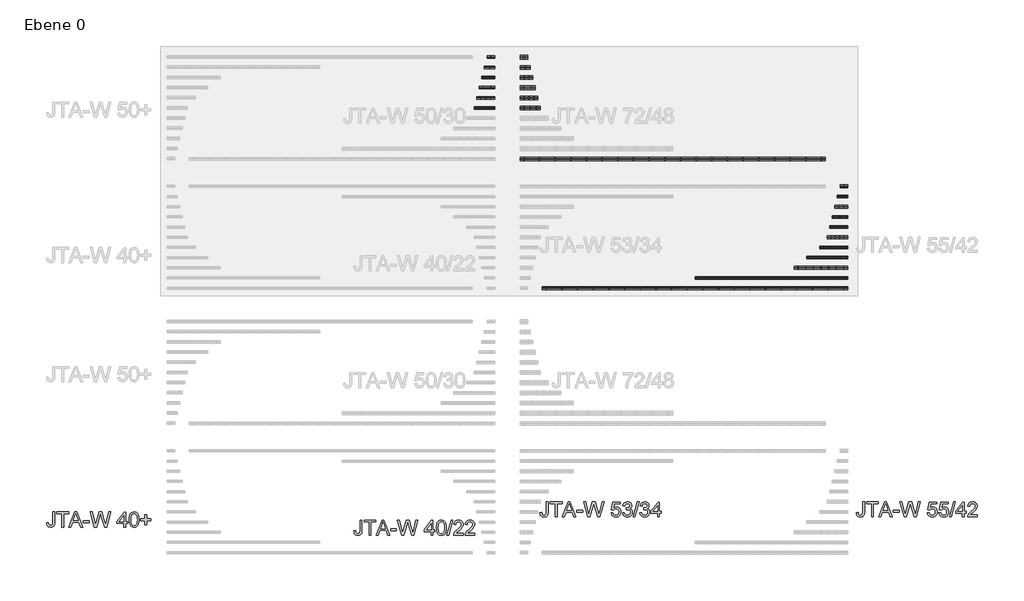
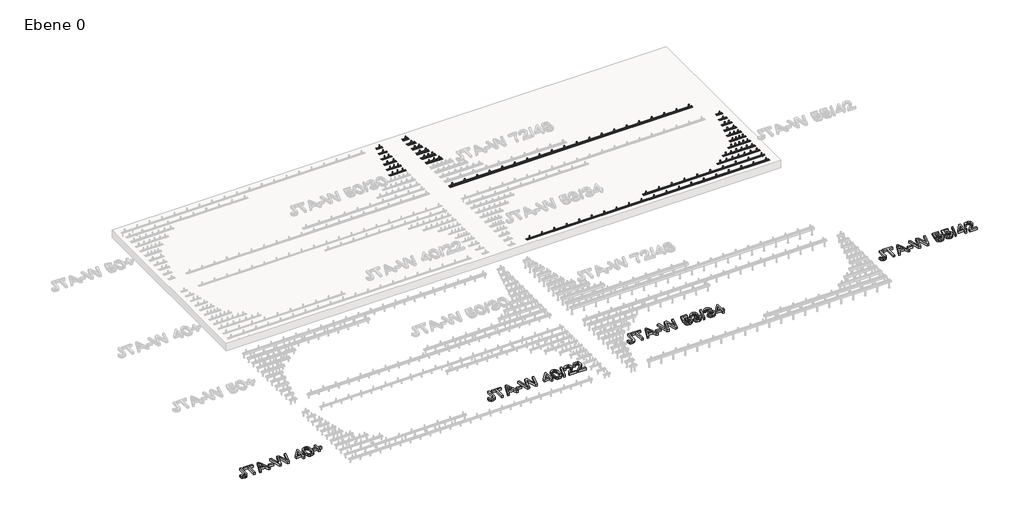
# One storey, part 3 of 5: 24 fasteners, 4 proxies.
"""IFC4 building model written with IfcOpenShell, lengths in millimetres."""

from ifc_helpers import new_model, si_unit, origin, origin_with_axes, place, context, project, spatial, polyline, outline, extrude, transform, mapped, element, save
from components import fastener_bc0e0492, fastener_2f8d67ed, fastener_759e0575, fastener_c9796623, fastener_be18af22, fastener_ec209d90, fastener_eb7ec72f, fastener_c7c1462d, fastener_3b5695ac, fastener_a81f9f25, fastener_b51df3b7, fastener_682311e9, fastener_55e4fc31, fastener_ce59bcd4, fastener_0ec726aa, fastener_f13404a8, fastener_590a0ea5, fastener_1f1ea62b, fastener_f18ef81e, fastener_d6b95dcd, fastener_27d0183c, fastener_f914a689, fastener_d06169fd, fastener_35095dbe, fastener_af97386c, fastener_28f62583, fastener_04aeaee6, fastener_a86c2ace, fastener_a53ba8c5, fastener_dd1fd8bc, fastener_4d909be3

model = new_model("IFC4")

# Units and contexts
model_context = context("Model", 3, world=origin())
ifc_project = project(units=[si_unit("LENGTHUNIT", "METRE", prefix="MILLI")], contexts=[model_context])

# Site, building, storey
site = spatial("IfcSite", under=ifc_project)
building = spatial("IfcBuilding", under=site)
storey = spatial("IfcBuildingStorey", under=building, Name="Ebene 0", Elevation=0.0)

# Proxies
placement = place(None, origin())
element("IfcBuildingElementProxy", 1, Name="600mm Arial", ObjectType="600mm Arial", at=placement, inside=storey, context=model_context, shape_type="SweptSolid", body=[
    extrude(outline(polyline([(-10013.7628927, -1994.3740925), (-9976.8398158, -1989.6144771), (-9972.9996716, -2016.4594291), (-9964.2196235, -2033.2442848), (-9950.806162, -2042.0603906), (-9933.0657774, -2044.9990925), (-9919.4269552, -2043.3314243), (-9907.789335, -2038.3284195), (-9898.8109697, -2030.4498137), (-9893.149912, -2020.1553425), (-9889.1475081, -1983.5567848), (-9889.1475081, -1781.9221695), (-9852.2244312, -1781.9221695), (-9852.2244312, -1982.9077464), (-9854.4509937, -2015.7833473), (-9861.1306812, -2040.2755348), (-9872.6511139, -2058.1691646), (-9889.399912, -2071.2490925), (-9910.430561, -2079.2539002), (-9934.7965466, -2081.9221695), (-9968.9251524, -2076.414357), (-9982.595525, -2069.5295913), (-9994.0032774, -2059.8909195), (-10002.945585, -2047.534399), (-10009.2196235, -2032.4960877), (-10013.7628927, -1994.3740925)])), origin_with_axes(), (0.0, 0.0, 1.0), 50.0),
    extrude(outline(polyline([(-9713.7628927, -2077.3067848), (-9713.7628927, -1818.8452464), (-9810.6859697, -1818.8452464), (-9810.6859697, -1781.9221695), (-9579.9167389, -1781.9221695), (-9579.9167389, -1818.8452464), (-9676.8398158, -1818.8452464), (-9676.8398158, -2077.3067848), (-9713.7628927, -2077.3067848)])), origin_with_axes(), (0.0, 0.0, 1.0), 50.0),
    extrude(outline(polyline([(-9572.7773158, -2077.3067848), (-9454.868662, -1781.9221695), (-9423.4263543, -1781.9221695), (-9305.5177004, -2077.3067848), (-9344.5321235, -2077.3067848), (-9378.3542389, -1984.9990925), (-9500.0128927, -1984.9990925), (-9533.7628927, -2077.3067848), (-9572.7773158, -2077.3067848)]), holes=[polyline([(-9486.4552004, -1948.0760156), (-9391.8398158, -1948.0760156), (-9418.4503927, -1875.4558233), (-9439.1475081, -1818.8452464), (-9457.5369312, -1869.1096695), (-9486.4552004, -1948.0760156)])]), origin_with_axes(), (0.0, 0.0, 1.0), 50.0),
    extrude(outline(polyline([(-9289.1475081, -1989.6144771), (-9289.1475081, -1952.6914002), (-9173.7628927, -1952.6914002), (-9173.7628927, -1989.6144771), (-9289.1475081, -1989.6144771)])), origin_with_axes(), (0.0, 0.0, 1.0), 50.0),
    extrude(outline(polyline([(-9074.7484697, -2077.3067848), (-9155.3013543, -1781.9221695), (-9117.2244312, -1781.9221695), (-9070.493662, -1976.0567848), (-9056.070585, -2035.9846695), (-9040.6378927, -1982.9798618), (-8982.0802004, -1781.9221695), (-8927.2003927, -1781.9221695), (-8884.6523158, -1927.6673618), (-8866.4251524, -1981.7539002), (-8852.993662, -2035.9846695), (-8839.0032774, -1977.7875541), (-8791.8398158, -1781.9221695), (-8753.7628927, -1781.9221695), (-8834.3878927, -2077.3067848), (-8873.8350081, -2077.3067848), (-8944.6523158, -1849.4221695), (-8954.5321235, -1817.6192848), (-8965.6378927, -1855.9125541), (-9030.181162, -2077.3067848), (-9074.7484697, -2077.3067848)])), origin_with_axes(), (0.0, 0.0, 1.0), 50.0),
    extrude(outline(polyline([(-8495.3013543, -2077.3067848), (-8495.3013543, -2008.0760156), (-8629.1475081, -2008.0760156), (-8629.1475081, -1971.1529387), (-8486.070585, -1786.5375541), (-8458.3782774, -1786.5375541), (-8458.3782774, -1971.1529387), (-8421.4552004, -1971.1529387), (-8421.4552004, -2008.0760156), (-8458.3782774, -2008.0760156), (-8458.3782774, -2077.3067848), (-8495.3013543, -2077.3067848)]), holes=[polyline([(-8495.3013543, -1971.1529387), (-8495.3013543, -1857.0664002), (-8583.7148158, -1971.1529387), (-8495.3013543, -1971.1529387)])]), origin_with_axes(), (0.0, 0.0, 1.0), 50.0),
    extrude(outline(polyline([(-8389.1475081, -1931.9942848), (-8386.4341668, -1884.7136358), (-8378.2941427, -1847.0063041), (-8364.8085658, -1818.2953666), (-8346.0585658, -1798.0039002), (-8321.9089264, -1785.9426021), (-8292.2244312, -1781.9221695), (-8269.4720274, -1784.3019771), (-8249.0994312, -1791.4414002), (-8232.0621716, -1803.0609916), (-8219.3157774, -1818.8813041), (-8209.6883735, -1838.7671214), (-8202.008085, -1862.5832271), (-8196.978037, -1892.8266166), (-8195.3013543, -1931.9942848), (-8197.9876524, -1979.0045012), (-8206.0465466, -2016.6216887), (-8219.4509937, -2045.3596695), (-8238.1739504, -2065.7322656), (-8262.3776764, -2077.8746935), (-8292.2244312, -2081.9221695), (-8312.5609697, -2080.164357), (-8330.5898158, -2074.8909195), (-8346.3109697, -2066.101857), (-8359.7244312, -2053.7971695), (-8372.5970274, -2031.5540805), (-8381.7917389, -2003.8392368), (-8387.3085658, -1970.6526382), (-8389.1475081, -1931.9942848)]), holes=[polyline([(-8352.2244312, -1931.9221695), (-8347.8975081, -1990.0020973), (-8342.4888543, -2009.8676322), (-8334.9167389, -2023.616881), (-8315.5898158, -2039.6535396), (-8292.2244312, -2044.9990925), (-8268.8590466, -2039.6355108), (-8249.5321235, -2023.5447656), (-8241.9600081, -2009.7729808), (-8236.5513543, -1989.9119531), (-8232.2244312, -1931.9221695), (-8236.4071235, -1875.1493329), (-8241.6354889, -1855.3491526), (-8248.9552004, -1841.273131), (-8268.2460658, -1824.4522175), (-8292.6571235, -1818.8452464), (-8315.7701043, -1823.7851502), (-8334.3398158, -1838.6048618), (-8342.164335, -1853.929381), (-8347.7532774, -1874.5904387), (-8352.2244312, -1931.9221695)])]), origin_with_axes(), (0.0, 0.0, 1.0), 50.0),
    extrude(outline(polyline([(-8079.9167389, -2031.1529387), (-8079.9167389, -1952.6914002), (-8158.3782774, -1952.6914002), (-8158.3782774, -1915.7683233), (-8079.9167389, -1915.7683233), (-8079.9167389, -1837.3067848), (-8042.993662, -1837.3067848), (-8042.993662, -1915.7683233), (-7964.5321235, -1915.7683233), (-7964.5321235, -1952.6914002), (-8042.993662, -1952.6914002), (-8042.993662, -2031.1529387), (-8079.9167389, -2031.1529387)])), origin_with_axes(), (0.0, 0.0, 1.0), 50.0),
])
element("IfcBuildingElementProxy", 2, Name="600mm Arial", ObjectType="600mm Arial", at=placement, inside=storey, context=model_context, shape_type="SweptSolid", body=[
    extrude(outline(polyline([(-3973.7628927, -2154.3740925), (-3936.8398158, -2149.6144771), (-3932.9996716, -2176.4594291), (-3924.2196235, -2193.2442848), (-3910.806162, -2202.0603906), (-3893.0657774, -2204.9990925), (-3879.4269552, -2203.3314243), (-3867.789335, -2198.3284195), (-3858.8109697, -2190.4498137), (-3853.149912, -2180.1553425), (-3849.1475081, -2143.5567848), (-3849.1475081, -1941.9221695), (-3812.2244312, -1941.9221695), (-3812.2244312, -2142.9077464), (-3814.4509937, -2175.7833473), (-3821.1306812, -2200.2755348), (-3832.6511139, -2218.1691646), (-3849.399912, -2231.2490925), (-3870.430561, -2239.2539002), (-3894.7965466, -2241.9221695), (-3928.9251524, -2236.414357), (-3942.595525, -2229.5295913), (-3954.0032774, -2219.8909195), (-3962.945585, -2207.534399), (-3969.2196235, -2192.4960877), (-3973.7628927, -2154.3740925)])), origin_with_axes(), (0.0, 0.0, 1.0), 50.0),
    extrude(outline(polyline([(-3673.7628927, -2237.3067848), (-3673.7628927, -1978.8452464), (-3770.6859697, -1978.8452464), (-3770.6859697, -1941.9221695), (-3539.9167389, -1941.9221695), (-3539.9167389, -1978.8452464), (-3636.8398158, -1978.8452464), (-3636.8398158, -2237.3067848), (-3673.7628927, -2237.3067848)])), origin_with_axes(), (0.0, 0.0, 1.0), 50.0),
    extrude(outline(polyline([(-3532.7773158, -2237.3067848), (-3414.868662, -1941.9221695), (-3383.4263543, -1941.9221695), (-3265.5177004, -2237.3067848), (-3304.5321235, -2237.3067848), (-3338.3542389, -2144.9990925), (-3460.0128927, -2144.9990925), (-3493.7628927, -2237.3067848), (-3532.7773158, -2237.3067848)]), holes=[polyline([(-3446.4552004, -2108.0760156), (-3351.8398158, -2108.0760156), (-3378.4503927, -2035.4558233), (-3399.1475081, -1978.8452464), (-3417.5369312, -2029.1096695), (-3446.4552004, -2108.0760156)])]), origin_with_axes(), (0.0, 0.0, 1.0), 50.0),
    extrude(outline(polyline([(-3249.1475081, -2149.6144771), (-3249.1475081, -2112.6914002), (-3133.7628927, -2112.6914002), (-3133.7628927, -2149.6144771), (-3249.1475081, -2149.6144771)])), origin_with_axes(), (0.0, 0.0, 1.0), 50.0),
    extrude(outline(polyline([(-3034.7484697, -2237.3067848), (-3115.3013543, -1941.9221695), (-3077.2244312, -1941.9221695), (-3030.493662, -2136.0567848), (-3016.070585, -2195.9846695), (-3000.6378927, -2142.9798618), (-2942.0802004, -1941.9221695), (-2887.2003927, -1941.9221695), (-2844.6523158, -2087.6673618), (-2826.4251524, -2141.7539002), (-2812.993662, -2195.9846695), (-2799.0032774, -2137.7875541), (-2751.8398158, -1941.9221695), (-2713.7628927, -1941.9221695), (-2794.3878927, -2237.3067848), (-2833.8350081, -2237.3067848), (-2904.6523158, -2009.4221695), (-2914.5321235, -1977.6192848), (-2925.6378927, -2015.9125541), (-2990.181162, -2237.3067848), (-3034.7484697, -2237.3067848)])), origin_with_axes(), (0.0, 0.0, 1.0), 50.0),
    extrude(outline(polyline([(-2455.3013543, -2237.3067848), (-2455.3013543, -2168.0760156), (-2589.1475081, -2168.0760156), (-2589.1475081, -2131.1529387), (-2446.070585, -1946.5375541), (-2418.3782774, -1946.5375541), (-2418.3782774, -2131.1529387), (-2381.4552004, -2131.1529387), (-2381.4552004, -2168.0760156), (-2418.3782774, -2168.0760156), (-2418.3782774, -2237.3067848), (-2455.3013543, -2237.3067848)]), holes=[polyline([(-2455.3013543, -2131.1529387), (-2455.3013543, -2017.0664002), (-2543.7148158, -2131.1529387), (-2455.3013543, -2131.1529387)])]), origin_with_axes(), (0.0, 0.0, 1.0), 50.0),
    extrude(outline(polyline([(-2349.1475081, -2091.9942848), (-2346.4341668, -2044.7136358), (-2338.2941427, -2007.0063041), (-2324.8085658, -1978.2953666), (-2306.0585658, -1958.0039002), (-2281.9089264, -1945.9426021), (-2252.2244312, -1941.9221695), (-2229.4720274, -1944.3019771), (-2209.0994312, -1951.4414002), (-2192.0621716, -1963.0609916), (-2179.3157774, -1978.8813041), (-2169.6883735, -1998.7671214), (-2162.008085, -2022.5832271), (-2156.978037, -2052.8266166), (-2155.3013543, -2091.9942848), (-2157.9876524, -2139.0045012), (-2166.0465466, -2176.6216887), (-2179.4509937, -2205.3596695), (-2198.1739504, -2225.7322656), (-2222.3776764, -2237.8746935), (-2252.2244312, -2241.9221695), (-2272.5609697, -2240.164357), (-2290.5898158, -2234.8909195), (-2306.3109697, -2226.101857), (-2319.7244312, -2213.7971695), (-2332.5970274, -2191.5540805), (-2341.7917389, -2163.8392368), (-2347.3085658, -2130.6526382), (-2349.1475081, -2091.9942848)]), holes=[polyline([(-2312.2244312, -2091.9221695), (-2307.8975081, -2150.0020973), (-2302.4888543, -2169.8676322), (-2294.9167389, -2183.616881), (-2275.5898158, -2199.6535396), (-2252.2244312, -2204.9990925), (-2228.8590466, -2199.6355108), (-2209.5321235, -2183.5447656), (-2201.9600081, -2169.7729808), (-2196.5513543, -2149.9119531), (-2192.2244312, -2091.9221695), (-2196.4071235, -2035.1493329), (-2201.6354889, -2015.3491526), (-2208.9552004, -2001.273131), (-2228.2460658, -1984.4522175), (-2252.6571235, -1978.8452464), (-2275.7701043, -1983.7851502), (-2294.3398158, -1998.6048618), (-2302.164335, -2013.929381), (-2307.7532774, -2034.5904387), (-2312.2244312, -2091.9221695)])]), origin_with_axes(), (0.0, 0.0, 1.0), 50.0),
    extrude(outline(polyline([(-2141.4552004, -2237.3067848), (-2058.3782774, -1941.9221695), (-2025.0609697, -1941.9221695), (-2108.1378927, -2237.3067848), (-2141.4552004, -2237.3067848)])), origin_with_axes(), (0.0, 0.0, 1.0), 50.0),
    extrude(outline(polyline([(-1818.3782774, -2200.3837079), (-1818.3782774, -2237.3067848), (-2012.2244312, -2237.3067848), (-2008.258085, -2211.8500541), (-1999.1535177, -2191.9552223), (-1985.8302004, -2172.6553425), (-1966.5573639, -2152.4540204), (-1939.6042389, -2129.8548618), (-1899.7604889, -2094.4642368), (-1875.8542389, -2068.3404387), (-1863.9011139, -2047.1385156), (-1859.9167389, -2026.5135156), (-1863.6757533, -2008.0249339), (-1874.9527966, -1992.6553425), (-1892.2875322, -1982.2977704), (-1914.2196235, -1978.8452464), (-1937.2514745, -1982.2166406), (-1955.1451043, -1992.3308233), (-1966.6925802, -2008.3945252), (-1970.6859697, -2029.6144771), (-2007.6090466, -2024.9990925), (-1998.6577245, -1989.2839483), (-1990.2810718, -1975.0366526), (-1979.3037581, -1963.1962079), (-1965.9781872, -1953.8888161), (-1950.5567629, -1947.2406791), (-1913.4263543, -1941.9221695), (-1893.637442, -1943.4005348), (-1876.0255129, -1947.835631), (-1860.590567, -1955.2274579), (-1847.3326043, -1965.5760156), (-1836.684317, -1978.1150781), (-1829.0783975, -1992.0784195), (-1824.5148459, -2007.4660396), (-1822.993662, -2024.2779387), (-1824.634287, -2041.9371935), (-1829.556162, -2059.2899579), (-1838.2911379, -2076.9401983), (-1851.3710658, -2095.491881), (-1872.2214264, -2117.6403185), (-1904.2677004, -2146.0808233), (-1946.743662, -2181.5976502), (-1963.4023158, -2200.3837079), (-1818.3782774, -2200.3837079)])), origin_with_axes(), (0.0, 0.0, 1.0), 50.0),
    extrude(outline(polyline([(-1592.2244312, -2200.3837079), (-1592.2244312, -2237.3067848), (-1786.070585, -2237.3067848), (-1782.1042389, -2211.8500541), (-1772.9996716, -2191.9552223), (-1759.6763543, -2172.6553425), (-1740.4035177, -2152.4540204), (-1713.4503927, -2129.8548618), (-1673.6066427, -2094.4642368), (-1649.7003927, -2068.3404387), (-1637.7472677, -2047.1385156), (-1633.7628927, -2026.5135156), (-1637.5219072, -2008.0249339), (-1648.7989504, -1992.6553425), (-1666.133686, -1982.2977704), (-1688.0657774, -1978.8452464), (-1711.0976283, -1982.2166406), (-1728.9912581, -1992.3308233), (-1740.5387341, -2008.3945252), (-1744.5321235, -2029.6144771), (-1781.4552004, -2024.9990925), (-1772.5038783, -1989.2839483), (-1764.1272257, -1975.0366526), (-1753.149912, -1963.1962079), (-1739.8243411, -1953.8888161), (-1724.4029168, -1947.2406791), (-1687.2725081, -1941.9221695), (-1667.4835959, -1943.4005348), (-1649.8716668, -1947.835631), (-1634.4367209, -1955.2274579), (-1621.1787581, -1965.5760156), (-1610.5304709, -1978.1150781), (-1602.9245514, -1992.0784195), (-1598.3609997, -2007.4660396), (-1596.8398158, -2024.2779387), (-1598.4804408, -2041.9371935), (-1603.4023158, -2059.2899579), (-1612.1372918, -2076.9401983), (-1625.2172197, -2095.491881), (-1646.0675802, -2117.6403185), (-1678.1138543, -2146.0808233), (-1720.5898158, -2181.5976502), (-1737.2484697, -2200.3837079), (-1592.2244312, -2200.3837079)])), origin_with_axes(), (0.0, 0.0, 1.0), 50.0),
])
element("IfcBuildingElementProxy", 3, Name="600mm Arial", ObjectType="600mm Arial", at=placement, inside=storey, context=model_context, shape_type="SweptSolid", body=[
    extrude(outline(polyline([(-313.7628927, -1794.3740925), (-276.8398158, -1789.6144771), (-272.9996716, -1816.4594291), (-264.2196235, -1833.2442848), (-250.806162, -1842.0603906), (-233.0657774, -1844.9990925), (-219.4269552, -1843.3314243), (-207.789335, -1838.3284195), (-198.8109697, -1830.4498137), (-193.149912, -1820.1553425), (-189.1475081, -1783.5567848), (-189.1475081, -1581.9221695), (-152.2244312, -1581.9221695), (-152.2244312, -1782.9077464), (-154.4509937, -1815.7833473), (-161.1306812, -1840.2755348), (-172.6511139, -1858.1691646), (-189.399912, -1871.2490925), (-210.430561, -1879.2539002), (-234.7965466, -1881.9221695), (-268.9251524, -1876.414357), (-282.595525, -1869.5295913), (-294.0032774, -1859.8909195), (-302.945585, -1847.534399), (-309.2196235, -1832.4960877), (-313.7628927, -1794.3740925)])), origin_with_axes(), (0.0, 0.0, 1.0), 50.0),
    extrude(outline(polyline([(-13.7628927, -1877.3067848), (-13.7628927, -1618.8452464), (-110.6859697, -1618.8452464), (-110.6859697, -1581.9221695), (120.0832611, -1581.9221695), (120.0832611, -1618.8452464), (23.1601842, -1618.8452464), (23.1601842, -1877.3067848), (-13.7628927, -1877.3067848)])), origin_with_axes(), (0.0, 0.0, 1.0), 50.0),
    extrude(outline(polyline([(127.2226842, -1877.3067848), (245.131338, -1581.9221695), (276.5736457, -1581.9221695), (394.4822996, -1877.3067848), (355.4678765, -1877.3067848), (321.6457611, -1784.9990925), (199.9871073, -1784.9990925), (166.2371073, -1877.3067848), (127.2226842, -1877.3067848)]), holes=[polyline([(213.5447996, -1748.0760156), (308.1601842, -1748.0760156), (281.5496073, -1675.4558233), (260.8524919, -1618.8452464), (242.4630688, -1669.1096695), (213.5447996, -1748.0760156)])]), origin_with_axes(), (0.0, 0.0, 1.0), 50.0),
    extrude(outline(polyline([(410.8524919, -1789.6144771), (410.8524919, -1752.6914002), (526.2371073, -1752.6914002), (526.2371073, -1789.6144771), (410.8524919, -1789.6144771)])), origin_with_axes(), (0.0, 0.0, 1.0), 50.0),
    extrude(outline(polyline([(625.2515303, -1877.3067848), (544.6986457, -1581.9221695), (582.7755688, -1581.9221695), (629.506338, -1776.0567848), (643.929415, -1835.9846695), (659.3621073, -1782.9798618), (717.9197996, -1581.9221695), (772.7996073, -1581.9221695), (815.3476842, -1727.6673618), (833.5748476, -1781.7539002), (847.006338, -1835.9846695), (860.9967226, -1777.7875541), (908.1601842, -1581.9221695), (946.2371073, -1581.9221695), (865.6121073, -1877.3067848), (826.1649919, -1877.3067848), (755.3476842, -1649.4221695), (745.4678765, -1617.6192848), (734.3621073, -1655.9125541), (669.818838, -1877.3067848), (625.2515303, -1877.3067848)])), origin_with_axes(), (0.0, 0.0, 1.0), 50.0),
    extrude(outline(polyline([(1084.6986457, -1798.8452464), (1121.6217226, -1794.2298618), (1128.4005688, -1816.3963281), (1140.2274919, -1832.2707271), (1157.0484053, -1841.8170012), (1178.8092226, -1844.9990925), (1205.2755688, -1840.5730108), (1225.1072996, -1827.2947656), (1237.4931169, -1806.6968089), (1241.6217226, -1780.3115925), (1237.7545351, -1755.4678425), (1226.1529726, -1736.4654387), (1206.7268909, -1724.4041406), (1179.3861457, -1720.3837079), (1161.4744871, -1721.9882752), (1146.9702803, -1726.8019771), (1126.2371073, -1743.460631), (1089.3140303, -1738.8452464), (1121.6217226, -1586.5375541), (1264.6986457, -1586.5375541), (1264.6986457, -1623.460631), (1151.4774919, -1623.460631), (1135.6842226, -1704.8067848), (1162.0604246, -1688.7971695), (1189.6986457, -1683.460631), (1207.6801662, -1685.1147776), (1224.1968428, -1690.0772175), (1239.2486758, -1698.3479507), (1252.835665, -1709.9269771), (1264.0834113, -1724.1066646), (1272.1175159, -1740.179381), (1276.9379787, -1758.1451262), (1278.5447996, -1778.0039002), (1272.75754, -1814.9269771), (1265.5234654, -1831.3873137), (1255.3957611, -1846.5135156), (1240.053213, -1862.0048017), (1222.1505688, -1873.070006), (1201.6878284, -1879.7091286), (1178.6649919, -1881.9221695), (1142.3999678, -1876.2340685), (1127.0326301, -1869.1239423), (1113.5087419, -1859.1697656), (1102.2564883, -1846.8673317), (1093.7040544, -1832.7124339), (1084.6986457, -1798.8452464)])), origin_with_axes(), (0.0, 0.0, 1.0), 50.0),
    extrude(outline(polyline([(1310.8524919, -1798.8452464), (1347.7755688, -1794.2298618), (1356.0417948, -1817.4329868), (1368.148165, -1833.1000541), (1384.6896313, -1842.0243329), (1406.2611457, -1844.9990925), (1431.5736457, -1840.9065445), (1451.116915, -1828.6289002), (1463.6109053, -1810.3115925), (1467.7755688, -1788.1000541), (1463.646963, -1767.0153185), (1451.2611457, -1749.9149579), (1432.5111457, -1738.5838281), (1409.2899919, -1734.8067848), (1383.4005688, -1738.8452464), (1387.5111457, -1701.9221695), (1393.4246073, -1702.3548618), (1415.5460015, -1699.7046214), (1435.3236457, -1691.7539002), (1449.2779726, -1678.304381), (1453.929415, -1659.1577464), (1450.5580207, -1643.211232), (1440.443838, -1630.2755348), (1425.0111457, -1621.7028185), (1405.6842226, -1618.8452464), (1386.3212419, -1621.7298618), (1370.491915, -1630.3837079), (1358.9354246, -1644.8067848), (1352.3909534, -1664.9990925), (1315.4678765, -1660.3837079), (1326.3392707, -1627.2286598), (1345.6842226, -1602.4750541), (1372.1505688, -1587.0603906), (1404.3861457, -1581.9221695), (1427.5982851, -1584.4552223), (1448.9173957, -1592.054381), (1466.8921553, -1604.0435637), (1480.0712419, -1619.7466887), (1488.1571794, -1637.8386358), (1490.8524919, -1656.9942848), (1488.2923957, -1674.8428425), (1480.6121073, -1691.0327464), (1467.9197996, -1704.8248137), (1450.3236457, -1715.4798618), (1473.4366265, -1724.8188041), (1490.5640303, -1740.7202464), (1501.1649919, -1762.3188041), (1504.6986457, -1788.7490925), (1502.9318188, -1807.4810637), (1497.631338, -1824.7346695), (1488.7972034, -1840.5099098), (1476.429415, -1854.8067848), (1461.3618068, -1866.6697656), (1444.428213, -1875.1433233), (1425.6286337, -1880.2274579), (1404.9630688, -1881.9221695), (1369.2659534, -1876.1349098), (1353.9053765, -1868.9008353), (1340.2034534, -1858.773131), (1328.7145712, -1846.3467488), (1319.9931169, -1832.2166406), (1310.8524919, -1798.8452464)])), origin_with_axes(), (0.0, 0.0, 1.0), 50.0),
    extrude(outline(polyline([(1518.5447996, -1877.3067848), (1601.6217226, -1581.9221695), (1634.9390303, -1581.9221695), (1551.8621073, -1877.3067848), (1518.5447996, -1877.3067848)])), origin_with_axes(), (0.0, 0.0, 1.0), 50.0),
    extrude(outline(polyline([(1652.3909534, -1798.8452464), (1689.3140303, -1794.2298618), (1697.5802563, -1817.4329868), (1709.6866265, -1833.1000541), (1726.2280928, -1842.0243329), (1747.7996073, -1844.9990925), (1773.1121073, -1840.9065445), (1792.6553765, -1828.6289002), (1805.1493669, -1810.3115925), (1809.3140303, -1788.1000541), (1805.1854246, -1767.0153185), (1792.7996073, -1749.9149579), (1774.0496073, -1738.5838281), (1750.8284534, -1734.8067848), (1724.9390303, -1738.8452464), (1729.0496073, -1701.9221695), (1734.9630688, -1702.3548618), (1757.084463, -1699.7046214), (1776.8621073, -1691.7539002), (1790.8164342, -1678.304381), (1795.4678765, -1659.1577464), (1792.0964823, -1643.211232), (1781.9822996, -1630.2755348), (1766.5496073, -1621.7028185), (1747.2226842, -1618.8452464), (1727.8597034, -1621.7298618), (1712.0303765, -1630.3837079), (1700.4738861, -1644.8067848), (1693.929415, -1664.9990925), (1657.006338, -1660.3837079), (1667.8777323, -1627.2286598), (1687.2226842, -1602.4750541), (1713.6890303, -1587.0603906), (1745.9246073, -1581.9221695), (1769.1367467, -1584.4552223), (1790.4558573, -1592.054381), (1808.4306169, -1604.0435637), (1821.6097034, -1619.7466887), (1829.6956409, -1637.8386358), (1832.3909534, -1656.9942848), (1829.8308573, -1674.8428425), (1822.1505688, -1691.0327464), (1809.4582611, -1704.8248137), (1791.8621073, -1715.4798618), (1814.975088, -1724.8188041), (1832.1024919, -1740.7202464), (1842.7034534, -1762.3188041), (1846.2371073, -1788.7490925), (1844.4702803, -1807.4810637), (1839.1697996, -1824.7346695), (1830.335665, -1840.5099098), (1817.9678765, -1854.8067848), (1802.9002683, -1866.6697656), (1785.9666746, -1875.1433233), (1767.1670952, -1880.2274579), (1746.5015303, -1881.9221695), (1710.804415, -1876.1349098), (1695.443838, -1868.9008353), (1681.741915, -1858.773131), (1670.2530327, -1846.3467488), (1661.5315784, -1832.2166406), (1652.3909534, -1798.8452464)])), origin_with_axes(), (0.0, 0.0, 1.0), 50.0),
    extrude(outline(polyline([(1998.5447996, -1877.3067848), (1998.5447996, -1808.0760156), (1864.6986457, -1808.0760156), (1864.6986457, -1771.1529387), (2007.7755688, -1586.5375541), (2035.4678765, -1586.5375541), (2035.4678765, -1771.1529387), (2072.3909534, -1771.1529387), (2072.3909534, -1808.0760156), (2035.4678765, -1808.0760156), (2035.4678765, -1877.3067848), (1998.5447996, -1877.3067848)]), holes=[polyline([(1998.5447996, -1771.1529387), (1998.5447996, -1657.0664002), (1910.131338, -1771.1529387), (1998.5447996, -1771.1529387)])]), origin_with_axes(), (0.0, 0.0, 1.0), 50.0),
])
element("IfcBuildingElementProxy", 4, Name="600mm Arial", ObjectType="600mm Arial", at=placement, inside=storey, context=model_context, shape_type="SweptSolid", body=[
    extrude(outline(polyline([(5906.2371073, -1794.3740925), (5943.1601842, -1789.6144771), (5947.0003284, -1816.4594291), (5955.7803765, -1833.2442848), (5969.193838, -1842.0603906), (5986.9342226, -1844.9990925), (6000.5730448, -1843.3314243), (6012.210665, -1838.3284195), (6021.1890303, -1830.4498137), (6026.850088, -1820.1553425), (6030.8524919, -1783.5567848), (6030.8524919, -1581.9221695), (6067.7755688, -1581.9221695), (6067.7755688, -1782.9077464), (6065.5490063, -1815.7833473), (6058.8693188, -1840.2755348), (6047.3488861, -1858.1691646), (6030.600088, -1871.2490925), (6009.569439, -1879.2539002), (5985.2034534, -1881.9221695), (5951.0748476, -1876.414357), (5937.404475, -1869.5295913), (5925.9967226, -1859.8909195), (5917.054415, -1847.534399), (5910.7803765, -1832.4960877), (5906.2371073, -1794.3740925)])), origin_with_axes(), (0.0, 0.0, 1.0), 50.0),
    extrude(outline(polyline([(6206.2371073, -1877.3067848), (6206.2371073, -1618.8452464), (6109.3140303, -1618.8452464), (6109.3140303, -1581.9221695), (6340.0832611, -1581.9221695), (6340.0832611, -1618.8452464), (6243.1601842, -1618.8452464), (6243.1601842, -1877.3067848), (6206.2371073, -1877.3067848)])), origin_with_axes(), (0.0, 0.0, 1.0), 50.0),
    extrude(outline(polyline([(6347.2226842, -1877.3067848), (6465.131338, -1581.9221695), (6496.5736457, -1581.9221695), (6614.4822996, -1877.3067848), (6575.4678765, -1877.3067848), (6541.6457611, -1784.9990925), (6419.9871073, -1784.9990925), (6386.2371073, -1877.3067848), (6347.2226842, -1877.3067848)]), holes=[polyline([(6433.5447996, -1748.0760156), (6528.1601842, -1748.0760156), (6501.5496073, -1675.4558233), (6480.8524919, -1618.8452464), (6462.4630688, -1669.1096695), (6433.5447996, -1748.0760156)])]), origin_with_axes(), (0.0, 0.0, 1.0), 50.0),
    extrude(outline(polyline([(6630.8524919, -1789.6144771), (6630.8524919, -1752.6914002), (6746.2371073, -1752.6914002), (6746.2371073, -1789.6144771), (6630.8524919, -1789.6144771)])), origin_with_axes(), (0.0, 0.0, 1.0), 50.0),
    extrude(outline(polyline([(6845.2515303, -1877.3067848), (6764.6986457, -1581.9221695), (6802.7755688, -1581.9221695), (6849.506338, -1776.0567848), (6863.929415, -1835.9846695), (6879.3621073, -1782.9798618), (6937.9197996, -1581.9221695), (6992.7996073, -1581.9221695), (7035.3476842, -1727.6673618), (7053.5748476, -1781.7539002), (7067.006338, -1835.9846695), (7080.9967226, -1777.7875541), (7128.1601842, -1581.9221695), (7166.2371073, -1581.9221695), (7085.6121073, -1877.3067848), (7046.1649919, -1877.3067848), (6975.3476842, -1649.4221695), (6965.4678765, -1617.6192848), (6954.3621073, -1655.9125541), (6889.818838, -1877.3067848), (6845.2515303, -1877.3067848)])), origin_with_axes(), (0.0, 0.0, 1.0), 50.0),
    extrude(outline(polyline([(7304.6986457, -1798.8452464), (7341.6217226, -1794.2298618), (7348.4005688, -1816.3963281), (7360.2274919, -1832.2707271), (7377.0484053, -1841.8170012), (7398.8092226, -1844.9990925), (7425.2755688, -1840.5730108), (7445.1072996, -1827.2947656), (7457.4931169, -1806.6968089), (7461.6217226, -1780.3115925), (7457.7545351, -1755.4678425), (7446.1529726, -1736.4654387), (7426.7268909, -1724.4041406), (7399.3861457, -1720.3837079), (7381.4744871, -1721.9882752), (7366.9702803, -1726.8019771), (7346.2371073, -1743.460631), (7309.3140303, -1738.8452464), (7341.6217226, -1586.5375541), (7484.6986457, -1586.5375541), (7484.6986457, -1623.460631), (7371.4774919, -1623.460631), (7355.6842226, -1704.8067848), (7382.0604246, -1688.7971695), (7409.6986457, -1683.460631), (7427.6801662, -1685.1147776), (7444.1968428, -1690.0772175), (7459.2486758, -1698.3479507), (7472.835665, -1709.9269771), (7484.0834113, -1724.1066646), (7492.1175159, -1740.179381), (7496.9379787, -1758.1451262), (7498.5447996, -1778.0039002), (7492.75754, -1814.9269771), (7485.5234654, -1831.3873137), (7475.3957611, -1846.5135156), (7460.053213, -1862.0048017), (7442.1505688, -1873.070006), (7421.6878284, -1879.7091286), (7398.6649919, -1881.9221695), (7362.3999678, -1876.2340685), (7347.0326301, -1869.1239423), (7333.5087419, -1859.1697656), (7322.2564883, -1846.8673317), (7313.7040544, -1832.7124339), (7304.6986457, -1798.8452464)])), origin_with_axes(), (0.0, 0.0, 1.0), 50.0),
    extrude(outline(polyline([(7530.8524919, -1798.8452464), (7567.7755688, -1794.2298618), (7574.554415, -1816.3963281), (7586.381338, -1832.2707271), (7603.2022515, -1841.8170012), (7624.9630688, -1844.9990925), (7651.429415, -1840.5730108), (7671.2611457, -1827.2947656), (7683.646963, -1806.6968089), (7687.7755688, -1780.3115925), (7683.9083813, -1755.4678425), (7672.3068188, -1736.4654387), (7652.8807371, -1724.4041406), (7625.5399919, -1720.3837079), (7607.6283332, -1721.9882752), (7593.1241265, -1726.8019771), (7572.3909534, -1743.460631), (7535.4678765, -1738.8452464), (7567.7755688, -1586.5375541), (7710.8524919, -1586.5375541), (7710.8524919, -1623.460631), (7597.631338, -1623.460631), (7581.8380688, -1704.8067848), (7608.2142707, -1688.7971695), (7635.8524919, -1683.460631), (7653.8340123, -1685.1147776), (7670.350689, -1690.0772175), (7685.4025219, -1698.3479507), (7698.9895111, -1709.9269771), (7710.2372575, -1724.1066646), (7718.2713621, -1740.179381), (7723.0918248, -1758.1451262), (7724.6986457, -1778.0039002), (7718.9113861, -1814.9269771), (7711.6773116, -1831.3873137), (7701.5496073, -1846.5135156), (7686.2070592, -1862.0048017), (7668.304415, -1873.070006), (7647.8416746, -1879.7091286), (7624.818838, -1881.9221695), (7588.553814, -1876.2340685), (7573.1864763, -1869.1239423), (7559.662588, -1859.1697656), (7548.4103344, -1846.8673317), (7539.8579005, -1832.7124339), (7530.8524919, -1798.8452464)])), origin_with_axes(), (0.0, 0.0, 1.0), 50.0),
    extrude(outline(polyline([(7738.5447996, -1877.3067848), (7821.6217226, -1581.9221695), (7854.9390303, -1581.9221695), (7771.8621073, -1877.3067848), (7738.5447996, -1877.3067848)])), origin_with_axes(), (0.0, 0.0, 1.0), 50.0),
    extrude(outline(polyline([(7992.3909534, -1877.3067848), (7992.3909534, -1808.0760156), (7858.5447996, -1808.0760156), (7858.5447996, -1771.1529387), (8001.6217226, -1586.5375541), (8029.3140303, -1586.5375541), (8029.3140303, -1771.1529387), (8066.2371073, -1771.1529387), (8066.2371073, -1808.0760156), (8029.3140303, -1808.0760156), (8029.3140303, -1877.3067848), (7992.3909534, -1877.3067848)]), holes=[polyline([(7992.3909534, -1771.1529387), (7992.3909534, -1657.0664002), (7903.9774919, -1771.1529387), (7992.3909534, -1771.1529387)])]), origin_with_axes(), (0.0, 0.0, 1.0), 50.0),
    extrude(outline(polyline([(8287.7755688, -1840.3837079), (8287.7755688, -1877.3067848), (8093.929415, -1877.3067848), (8097.8957611, -1851.8500541), (8107.0003284, -1831.9552223), (8120.3236457, -1812.6553425), (8139.5964823, -1792.4540204), (8166.5496073, -1769.8548618), (8206.3933573, -1734.4642368), (8230.2996073, -1708.3404387), (8242.2527323, -1687.1385156), (8246.2371073, -1666.5135156), (8242.4780928, -1648.0249339), (8231.2010496, -1632.6553425), (8213.866314, -1622.2977704), (8191.9342226, -1618.8452464), (8168.9023717, -1622.2166406), (8151.0087419, -1632.3308233), (8139.4612659, -1648.3945252), (8135.4678765, -1669.6144771), (8098.5447996, -1664.9990925), (8107.4961217, -1629.2839483), (8115.8727743, -1615.0366526), (8126.850088, -1603.1962079), (8140.1756589, -1593.8888161), (8155.5970832, -1587.2406791), (8192.7274919, -1581.9221695), (8212.5164041, -1583.4005348), (8230.1283332, -1587.835631), (8245.5632791, -1595.2274579), (8258.8212419, -1605.5760156), (8269.4695291, -1618.1150781), (8277.0754486, -1632.0784195), (8281.6390003, -1647.4660396), (8283.1601842, -1664.2779387), (8281.5195592, -1681.9371935), (8276.5976842, -1699.2899579), (8267.8627082, -1716.9401983), (8254.7827803, -1735.491881), (8233.9324198, -1757.6403185), (8201.8861457, -1786.0808233), (8159.4101842, -1821.5976502), (8142.7515303, -1840.3837079), (8287.7755688, -1840.3837079)])), origin_with_axes(), (0.0, 0.0, 1.0), 50.0),
])

# Fasteners
fastener_shape = fastener_bc0e0492(model_context)
element("IfcFastener", 5, ObjectType="JTA-W JORDAHL® AnchorChannels : JTA-W L=150 mm", at=placement, inside=storey, context=model_context, shape_type="MappedRepresentation", body=[
    mapped(fastener_shape, transform((-1203.969712, 7159.2634587, 0.0), x_axis=(-1.0, 0.0, 0.0), y_axis=(0.0, -1.0, 0.0), z_axis=(0.0, 0.0, 1.0))),
])
fastener_2_shape = fastener_2f8d67ed(model_context)
element("IfcFastener", 6, ObjectType="JTA-W JORDAHL® AnchorChannels : JTA-W L=200 mm", at=placement, inside=storey, context=model_context, shape_type="MappedRepresentation", body=[
    mapped(fastener_2_shape, transform((-1203.969712, 6959.2634587, 0.0), x_axis=(-1.0, 0.0, 0.0), y_axis=(0.0, -1.0, 0.0), z_axis=(0.0, 0.0, 1.0))),
])
fastener_3_shape = fastener_759e0575(model_context)
element("IfcFastener", 7, ObjectType="JTA-W JORDAHL® AnchorChannels : JTA-W L=250 mm", at=placement, inside=storey, context=model_context, shape_type="MappedRepresentation", body=[
    mapped(fastener_3_shape, transform((-1203.969712, 6759.2634587, 0.0), x_axis=(-1.0, 0.0, 0.0), y_axis=(0.0, -1.0, 0.0), z_axis=(0.0, 0.0, 1.0))),
])
fastener_4_shape = fastener_c9796623(model_context)
element("IfcFastener", 8, ObjectType="JTA-W JORDAHL® AnchorChannels : JTA-W L=300 mm", at=placement, inside=storey, context=model_context, shape_type="MappedRepresentation", body=[
    mapped(fastener_4_shape, transform((-1203.969712, 6559.2634587, 0.0), x_axis=(-1.0, 0.0, 0.0), y_axis=(0.0, -1.0, 0.0), z_axis=(0.0, 0.0, 1.0))),
])
fastener_5_shape = fastener_be18af22(model_context)
element("IfcFastener", 9, ObjectType="JTA-W JORDAHL® AnchorChannels : JTA-W L=350 mm", at=placement, inside=storey, context=model_context, shape_type="MappedRepresentation", body=[
    mapped(fastener_5_shape, transform((-1203.969712, 6359.2634587, 0.0), x_axis=(-1.0, 0.0, 0.0), y_axis=(0.0, -1.0, 0.0), z_axis=(0.0, 0.0, 1.0))),
])
fastener_6_shape = fastener_ec209d90(model_context)
element("IfcFastener", 10, ObjectType="JTA-W JORDAHL® AnchorChannels : JTA-W L=400 mm", at=placement, inside=storey, context=model_context, shape_type="MappedRepresentation", body=[
    mapped(fastener_6_shape, transform((-1203.969712, 6159.2634587, 0.0), x_axis=(-1.0, 0.0, 0.0), y_axis=(0.0, -1.0, 0.0), z_axis=(0.0, 0.0, 1.0))),
])
fastener_7_shape = fastener_eb7ec72f(model_context)
fastener_8_shape = fastener_c7c1462d(model_context)
fastener_9_shape = fastener_3b5695ac(model_context)
fastener_10_shape = fastener_a81f9f25(model_context)
element("IfcFastener", 11, ObjectType="JTA-W JORDAHL® AnchorChannels : JTA-W L=6000 mm", at=placement, inside=storey, context=model_context, shape_type="MappedRepresentation", body=[
    mapped(fastener_7_shape, transform((5736.030288, 2619.2634587, 0.0), x_axis=(-1.0, 0.0, 0.0), y_axis=(0.0, -1.0, 0.0), z_axis=(0.0, 0.0, 1.0))),
    mapped(fastener_8_shape, transform((5736.030288, 2619.2634587, 0.0), x_axis=(-1.0, 0.0, 0.0), y_axis=(0.0, -1.0, 0.0), z_axis=(0.0, 0.0, 1.0))),
    mapped(fastener_9_shape, transform((5736.030288, 2619.2634587, 0.0), x_axis=(-1.0, 0.0, 0.0), y_axis=(0.0, -1.0, 0.0), z_axis=(0.0, 0.0, 1.0))),
    mapped(fastener_10_shape, transform((5736.030288, 2619.2634587, 0.0), x_axis=(-1.0, 0.0, 0.0), y_axis=(0.0, -1.0, 0.0), z_axis=(0.0, 0.0, 1.0))),
])
fastener_11_shape = fastener_b51df3b7(model_context)
fastener_12_shape = fastener_682311e9(model_context)
element("IfcFastener", 12, ObjectType="JTA-W JORDAHL® AnchorChannels : JTA-W L=3000 mm", at=placement, inside=storey, context=model_context, shape_type="MappedRepresentation", body=[
    mapped(fastener_11_shape, transform((5736.030288, 2819.2634587, 0.0), x_axis=(-1.0, 0.0, 0.0), y_axis=(0.0, -1.0, 0.0), z_axis=(0.0, 0.0, 1.0))),
    mapped(fastener_12_shape, transform((5736.030288, 2819.2634587, 0.0), x_axis=(-1.0, 0.0, 0.0), y_axis=(0.0, -1.0, 0.0), z_axis=(0.0, 0.0, 1.0))),
])
fastener_13_shape = fastener_55e4fc31(model_context)
element("IfcFastener", 13, ObjectType="JTA-W JORDAHL® AnchorChannels : JTA-W L=1050 mm", at=placement, inside=storey, context=model_context, shape_type="MappedRepresentation", body=[
    mapped(fastener_13_shape, transform((5736.030288, 3019.2634587, 0.0), x_axis=(-1.0, 0.0, 0.0), y_axis=(0.0, -1.0, 0.0), z_axis=(0.0, 0.0, 1.0))),
])
fastener_14_shape = fastener_ce59bcd4(model_context)
element("IfcFastener", 14, ObjectType="JTA-W JORDAHL® AnchorChannels : JTA-W L=800 mm", at=placement, inside=storey, context=model_context, shape_type="MappedRepresentation", body=[
    mapped(fastener_14_shape, transform((5736.030288, 3219.2634587, 0.0), x_axis=(-1.0, 0.0, 0.0), y_axis=(0.0, -1.0, 0.0), z_axis=(0.0, 0.0, 1.0))),
])
fastener_15_shape = fastener_0ec726aa(model_context)
element("IfcFastener", 15, ObjectType="JTA-W JORDAHL® AnchorChannels : JTA-W L=550 mm", at=placement, inside=storey, context=model_context, shape_type="MappedRepresentation", body=[
    mapped(fastener_15_shape, transform((5736.030288, 3419.2634587, 0.0), x_axis=(-1.0, 0.0, 0.0), y_axis=(0.0, -1.0, 0.0), z_axis=(0.0, 0.0, 1.0))),
])
fastener_16_shape = fastener_f13404a8(model_context)
element("IfcFastener", 16, ObjectType="JTA-W JORDAHL® AnchorChannels : JTA-W L=400 mm", at=placement, inside=storey, context=model_context, shape_type="MappedRepresentation", body=[
    mapped(fastener_16_shape, transform((5736.030288, 3619.2634587, 0.0), x_axis=(-1.0, 0.0, 0.0), y_axis=(0.0, -1.0, 0.0), z_axis=(0.0, 0.0, 1.0))),
])
fastener_17_shape = fastener_590a0ea5(model_context)
element("IfcFastener", 17, ObjectType="JTA-W JORDAHL® AnchorChannels : JTA-W L=350 mm", at=placement, inside=storey, context=model_context, shape_type="MappedRepresentation", body=[
    mapped(fastener_17_shape, transform((5736.030288, 3819.2634587, 0.0), x_axis=(-1.0, 0.0, 0.0), y_axis=(0.0, -1.0, 0.0), z_axis=(0.0, 0.0, 1.0))),
])
fastener_18_shape = fastener_1f1ea62b(model_context)
element("IfcFastener", 18, ObjectType="JTA-W JORDAHL® AnchorChannels : JTA-W L=300 mm", at=placement, inside=storey, context=model_context, shape_type="MappedRepresentation", body=[
    mapped(fastener_18_shape, transform((5736.030288, 4019.2634587, 0.0), x_axis=(-1.0, 0.0, 0.0), y_axis=(0.0, -1.0, 0.0), z_axis=(0.0, 0.0, 1.0))),
])
fastener_19_shape = fastener_f18ef81e(model_context)
element("IfcFastener", 19, ObjectType="JTA-W JORDAHL® AnchorChannels : JTA-W L=250 mm", at=placement, inside=storey, context=model_context, shape_type="MappedRepresentation", body=[
    mapped(fastener_19_shape, transform((5736.030288, 4219.2634587, 0.0), x_axis=(-1.0, 0.0, 0.0), y_axis=(0.0, -1.0, 0.0), z_axis=(0.0, 0.0, 1.0))),
])
fastener_20_shape = fastener_d6b95dcd(model_context)
element("IfcFastener", 20, ObjectType="JTA-W JORDAHL® AnchorChannels : JTA-W L=200 mm", at=placement, inside=storey, context=model_context, shape_type="MappedRepresentation", body=[
    mapped(fastener_20_shape, transform((5736.030288, 4419.2634587, 0.0), x_axis=(-1.0, 0.0, 0.0), y_axis=(0.0, -1.0, 0.0), z_axis=(0.0, 0.0, 1.0))),
])
fastener_21_shape = fastener_27d0183c(model_context)
element("IfcFastener", 21, ObjectType="JTA-W JORDAHL® AnchorChannels : JTA-W L=150 mm", at=placement, inside=storey, context=model_context, shape_type="MappedRepresentation", body=[
    mapped(fastener_21_shape, transform((5736.030288, 4619.2634587, 0.0), x_axis=(-1.0, 0.0, 0.0), y_axis=(0.0, -1.0, 0.0), z_axis=(0.0, 0.0, 1.0))),
])
fastener_22_shape = fastener_f914a689(model_context)
element("IfcFastener", 22, ObjectType="JTA-W JORDAHL® AnchorChannels : JTA-W L=150 mm", at=placement, inside=storey, context=model_context, shape_type="MappedRepresentation", body=[
    mapped(fastener_22_shape, transform((-703.969712, 7159.2634587, 0.0), x_axis=(1.0, 0.0, 0.0), y_axis=(0.0, 1.0, 0.0), z_axis=(0.0, 0.0, 1.0))),
])
fastener_23_shape = fastener_d06169fd(model_context)
element("IfcFastener", 23, ObjectType="JTA-W JORDAHL® AnchorChannels : JTA-W L=200 mm", at=placement, inside=storey, context=model_context, shape_type="MappedRepresentation", body=[
    mapped(fastener_23_shape, transform((-703.969712, 6959.2634587, 0.0), x_axis=(1.0, 0.0, 0.0), y_axis=(0.0, 1.0, 0.0), z_axis=(0.0, 0.0, 1.0))),
])
fastener_24_shape = fastener_35095dbe(model_context)
element("IfcFastener", 24, ObjectType="JTA-W JORDAHL® AnchorChannels : JTA-W L=250 mm", at=placement, inside=storey, context=model_context, shape_type="MappedRepresentation", body=[
    mapped(fastener_24_shape, transform((-703.969712, 6759.2634587, 0.0), x_axis=(1.0, 0.0, 0.0), y_axis=(0.0, 1.0, 0.0), z_axis=(0.0, 0.0, 1.0))),
])
fastener_25_shape = fastener_af97386c(model_context)
element("IfcFastener", 25, ObjectType="JTA-W JORDAHL® AnchorChannels : JTA-W L=300 mm", at=placement, inside=storey, context=model_context, shape_type="MappedRepresentation", body=[
    mapped(fastener_25_shape, transform((-703.969712, 6559.2634587, 0.0), x_axis=(1.0, 0.0, 0.0), y_axis=(0.0, 1.0, 0.0), z_axis=(0.0, 0.0, 1.0))),
])
fastener_26_shape = fastener_28f62583(model_context)
element("IfcFastener", 26, ObjectType="JTA-W JORDAHL® AnchorChannels : JTA-W L=350 mm", at=placement, inside=storey, context=model_context, shape_type="MappedRepresentation", body=[
    mapped(fastener_26_shape, transform((-703.969712, 6359.2634587, 0.0), x_axis=(1.0, 0.0, 0.0), y_axis=(0.0, 1.0, 0.0), z_axis=(0.0, 0.0, 1.0))),
])
fastener_27_shape = fastener_04aeaee6(model_context)
element("IfcFastener", 27, ObjectType="JTA-W JORDAHL® AnchorChannels : JTA-W L=400 mm", at=placement, inside=storey, context=model_context, shape_type="MappedRepresentation", body=[
    mapped(fastener_27_shape, transform((-703.969712, 6159.2634587, 0.0), x_axis=(1.0, 0.0, 0.0), y_axis=(0.0, 1.0, 0.0), z_axis=(0.0, 0.0, 1.0))),
])
fastener_28_shape = fastener_a86c2ace(model_context)
fastener_29_shape = fastener_a53ba8c5(model_context)
fastener_30_shape = fastener_dd1fd8bc(model_context)
fastener_31_shape = fastener_4d909be3(model_context)
element("IfcFastener", 28, ObjectType="JTA-W JORDAHL® AnchorChannels : JTA-W L=6000 mm", at=placement, inside=storey, context=model_context, shape_type="MappedRepresentation", body=[
    mapped(fastener_28_shape, transform((-703.969712, 5159.2634587, 0.0), x_axis=(1.0, 0.0, 0.0), y_axis=(0.0, 1.0, 0.0), z_axis=(0.0, 0.0, 1.0))),
    mapped(fastener_29_shape, transform((-703.969712, 5159.2634587, 0.0), x_axis=(1.0, 0.0, 0.0), y_axis=(0.0, 1.0, 0.0), z_axis=(0.0, 0.0, 1.0))),
    mapped(fastener_30_shape, transform((-703.969712, 5159.2634587, 0.0), x_axis=(1.0, 0.0, 0.0), y_axis=(0.0, 1.0, 0.0), z_axis=(0.0, 0.0, 1.0))),
    mapped(fastener_31_shape, transform((-703.969712, 5159.2634587, 0.0), x_axis=(1.0, 0.0, 0.0), y_axis=(0.0, 1.0, 0.0), z_axis=(0.0, 0.0, 1.0))),
])

save(model, "model.ifc")
